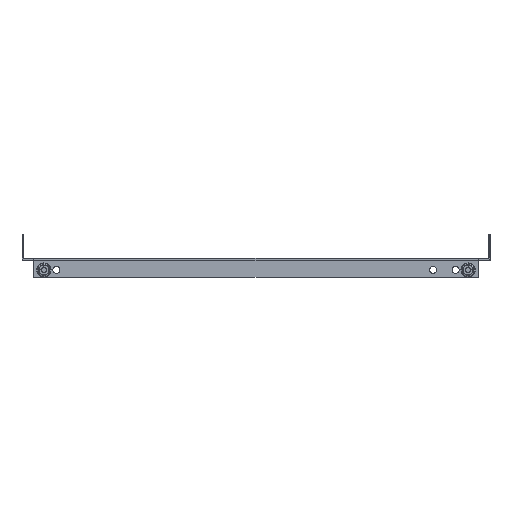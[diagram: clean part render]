
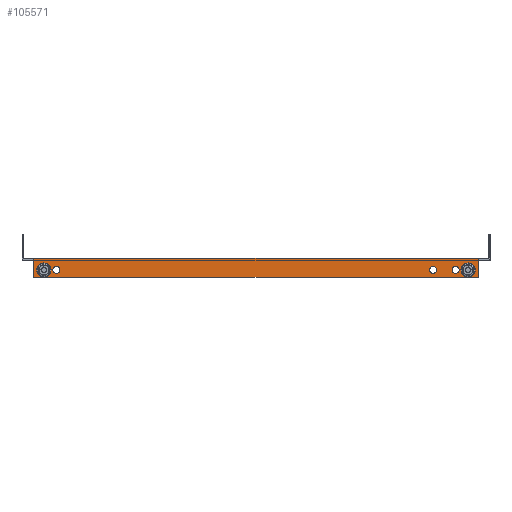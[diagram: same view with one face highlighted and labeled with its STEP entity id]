
A CAD part, left-side view. The second image highlights one B-rep face of the part: STEP entity #105571.
In plain terms, the highlighted planar face has unit normal (-1, 0, 0).
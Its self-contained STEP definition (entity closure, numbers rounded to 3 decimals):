
#82774 = VERTEX_POINT('',#82775);
#82775 = CARTESIAN_POINT('',(-450.,222.5,2.));
#82781 = EDGE_CURVE('',#82782,#82774,#82784,.T.);
#82782 = VERTEX_POINT('',#82783);
#82783 = CARTESIAN_POINT('',(-450.,-222.5,2.));
#82784 = LINE('',#82785,#82786);
#82785 = CARTESIAN_POINT('',(-450.,-232.5,2.));
#82786 = VECTOR('',#82787,1.);
#82787 = DIRECTION('',(0.,1.,-0.));
#105450 = VERTEX_POINT('',#105451);
#105451 = CARTESIAN_POINT('',(-450.,-222.5,-0.6));
#105466 = EDGE_CURVE('',#105450,#82782,#105467,.T.);
#105467 = LINE('',#105468,#105469);
#105468 = CARTESIAN_POINT('',(-450.,-222.5,-0.6));
#105469 = VECTOR('',#105470,1.);
#105470 = DIRECTION('',(0.,0.,1.));
#105490 = VERTEX_POINT('',#105491);
#105491 = CARTESIAN_POINT('',(-450.,222.5,-0.6));
#105497 = EDGE_CURVE('',#105490,#82774,#105498,.T.);
#105498 = LINE('',#105499,#105500);
#105499 = CARTESIAN_POINT('',(-450.,222.5,0.));
#105500 = VECTOR('',#105501,1.);
#105501 = DIRECTION('',(0.,0.,1.));
#105513 = EDGE_CURVE('',#105514,#105490,#105516,.T.);
#105514 = VERTEX_POINT('',#105515);
#105515 = CARTESIAN_POINT('',(-450.,222.5,-17.));
#105516 = LINE('',#105517,#105518);
#105517 = CARTESIAN_POINT('',(-450.,222.5,0.));
#105518 = VECTOR('',#105519,1.);
#105519 = DIRECTION('',(0.,-0.,1.));
#105553 = EDGE_CURVE('',#105450,#105554,#105556,.T.);
#105554 = VERTEX_POINT('',#105555);
#105555 = CARTESIAN_POINT('',(-450.,-222.5,-17.));
#105556 = LINE('',#105557,#105558);
#105557 = CARTESIAN_POINT('',(-450.,-222.5,-17.));
#105558 = VECTOR('',#105559,1.);
#105559 = DIRECTION('',(0.,-0.,-1.));
#105571 = ADVANCED_FACE('',(#105572,#105583,#105603,#105623,#105634,
    #105645),#105658,.T.);
#105572 = FACE_BOUND('',#105573,.T.);
#105573 = EDGE_LOOP('',(#105574));
#105574 = ORIENTED_EDGE('',*,*,#105575,.T.);
#105575 = EDGE_CURVE('',#105576,#105576,#105578,.T.);
#105576 = VERTEX_POINT('',#105577);
#105577 = CARTESIAN_POINT('',(-450.,-177.5,-13.));
#105578 = CIRCLE('',#105579,3.5);
#105579 = AXIS2_PLACEMENT_3D('',#105580,#105581,#105582);
#105580 = CARTESIAN_POINT('',(-450.,-177.5,-9.5));
#105581 = DIRECTION('',(1.,0.,0.));
#105582 = DIRECTION('',(0.,-0.,-1.));
#105583 = FACE_BOUND('',#105584,.T.);
#105584 = EDGE_LOOP('',(#105585,#105596));
#105585 = ORIENTED_EDGE('',*,*,#105586,.F.);
#105586 = EDGE_CURVE('',#105587,#105589,#105591,.T.);
#105587 = VERTEX_POINT('',#105588);
#105588 = CARTESIAN_POINT('',(-450.,-212.5,-13.));
#105589 = VERTEX_POINT('',#105590);
#105590 = CARTESIAN_POINT('',(-450.,-212.5,-6.));
#105591 = CIRCLE('',#105592,3.5);
#105592 = AXIS2_PLACEMENT_3D('',#105593,#105594,#105595);
#105593 = CARTESIAN_POINT('',(-450.,-212.5,-9.5));
#105594 = DIRECTION('',(-1.,0.,0.));
#105595 = DIRECTION('',(0.,0.,-1.));
#105596 = ORIENTED_EDGE('',*,*,#105597,.F.);
#105597 = EDGE_CURVE('',#105589,#105587,#105598,.T.);
#105598 = CIRCLE('',#105599,3.5);
#105599 = AXIS2_PLACEMENT_3D('',#105600,#105601,#105602);
#105600 = CARTESIAN_POINT('',(-450.,-212.5,-9.5));
#105601 = DIRECTION('',(-1.,0.,0.));
#105602 = DIRECTION('',(0.,0.,-1.));
#105603 = FACE_BOUND('',#105604,.T.);
#105604 = EDGE_LOOP('',(#105605,#105616));
#105605 = ORIENTED_EDGE('',*,*,#105606,.F.);
#105606 = EDGE_CURVE('',#105607,#105609,#105611,.T.);
#105607 = VERTEX_POINT('',#105608);
#105608 = CARTESIAN_POINT('',(-450.,-200.,-13.));
#105609 = VERTEX_POINT('',#105610);
#105610 = CARTESIAN_POINT('',(-450.,-200.,-6.));
#105611 = CIRCLE('',#105612,3.5);
#105612 = AXIS2_PLACEMENT_3D('',#105613,#105614,#105615);
#105613 = CARTESIAN_POINT('',(-450.,-200.,-9.5));
#105614 = DIRECTION('',(-1.,0.,0.));
#105615 = DIRECTION('',(0.,0.,-1.));
#105616 = ORIENTED_EDGE('',*,*,#105617,.F.);
#105617 = EDGE_CURVE('',#105609,#105607,#105618,.T.);
#105618 = CIRCLE('',#105619,3.5);
#105619 = AXIS2_PLACEMENT_3D('',#105620,#105621,#105622);
#105620 = CARTESIAN_POINT('',(-450.,-200.,-9.5));
#105621 = DIRECTION('',(-1.,0.,0.));
#105622 = DIRECTION('',(0.,0.,-1.));
#105623 = FACE_BOUND('',#105624,.T.);
#105624 = EDGE_LOOP('',(#105625));
#105625 = ORIENTED_EDGE('',*,*,#105626,.F.);
#105626 = EDGE_CURVE('',#105627,#105627,#105629,.T.);
#105627 = VERTEX_POINT('',#105628);
#105628 = CARTESIAN_POINT('',(-450.,200.,-6.));
#105629 = CIRCLE('',#105630,3.5);
#105630 = AXIS2_PLACEMENT_3D('',#105631,#105632,#105633);
#105631 = CARTESIAN_POINT('',(-450.,200.,-9.5));
#105632 = DIRECTION('',(-1.,0.,0.));
#105633 = DIRECTION('',(0.,0.,1.));
#105634 = FACE_BOUND('',#105635,.T.);
#105635 = EDGE_LOOP('',(#105636));
#105636 = ORIENTED_EDGE('',*,*,#105637,.F.);
#105637 = EDGE_CURVE('',#105638,#105638,#105640,.T.);
#105638 = VERTEX_POINT('',#105639);
#105639 = CARTESIAN_POINT('',(-450.,212.5,-6.));
#105640 = CIRCLE('',#105641,3.5);
#105641 = AXIS2_PLACEMENT_3D('',#105642,#105643,#105644);
#105642 = CARTESIAN_POINT('',(-450.,212.5,-9.5));
#105643 = DIRECTION('',(-1.,0.,0.));
#105644 = DIRECTION('',(0.,0.,1.));
#105645 = FACE_BOUND('',#105646,.T.);
#105646 = EDGE_LOOP('',(#105647,#105648,#105649,#105650,#105651,#105652)
  );
#105647 = ORIENTED_EDGE('',*,*,#105553,.F.);
#105648 = ORIENTED_EDGE('',*,*,#105466,.T.);
#105649 = ORIENTED_EDGE('',*,*,#82781,.T.);
#105650 = ORIENTED_EDGE('',*,*,#105497,.F.);
#105651 = ORIENTED_EDGE('',*,*,#105513,.F.);
#105652 = ORIENTED_EDGE('',*,*,#105653,.F.);
#105653 = EDGE_CURVE('',#105554,#105514,#105654,.T.);
#105654 = LINE('',#105655,#105656);
#105655 = CARTESIAN_POINT('',(-450.,222.5,-17.));
#105656 = VECTOR('',#105657,1.);
#105657 = DIRECTION('',(0.,1.,-0.));
#105658 = PLANE('',#105659);
#105659 = AXIS2_PLACEMENT_3D('',#105660,#105661,#105662);
#105660 = CARTESIAN_POINT('',(-450.,222.5,0.));
#105661 = DIRECTION('',(-1.,0.,0.));
#105662 = DIRECTION('',(0.,0.,1.));
